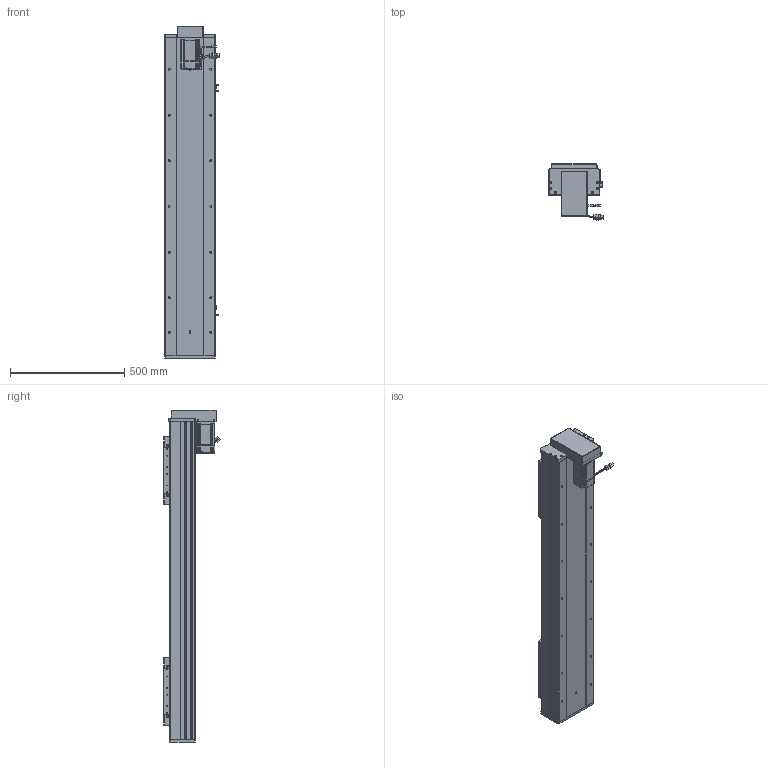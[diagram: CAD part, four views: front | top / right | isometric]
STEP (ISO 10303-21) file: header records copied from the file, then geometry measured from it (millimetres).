
FILE_DESCRIPTION (( 'STEP AP203' ), '1' );
FILE_NAME ('RY220F-L2525-800-BK-邧嶺.SLDASM_950.step', '2022-08-06T08:07:44', ( '' ), ( '' ), 'SwSTEP 2.0', 'SolidWorks 2016', '' );
FILE_SCHEMA (( 'CONFIG_CONTROL_DESIGN' ));
Length unit declared in the file: millimetre
Products named in the file (15): RY220F綴裔啣; RY220F-672覜茼んえ; RY220F-蛌殏奻裔啣-800_950; RY220F-滅鳥奻裔; RY220狟殏萇儂假蚾啣; RY220F-L2525-800-BK-邧嶺.SLDASM_950; 覜茼ん672; RY220F臏賑釱25-32佪裝; 怢湛750W_ECMA-CX0807ES; RY220狟殏萇儂欶; 滅袉蝶18-24; RY220F-詩湍揤踡輸; RY220F-祥凄詩湍-蛌殏-800_950; 侐源滅袉蝶; RY220F蛌殏菁釱-800-邧嶺_950
Assembly tree (24 placements, depth 2):
  RY220F-L2525-800-BK-邧嶺.SLDASM_950
    RY220F蛌殏菁釱-800-邧嶺_950
    RY220F-蛌殏奻裔啣-800_950  x2
    怢湛750W_ECMA-CX0807ES
    RY220F臏賑釱25-32佪裝  x2
    RY220F-滅鳥奻裔  x2
    滅袉蝶18-24  x3
    RY220F綴裔啣
    RY220F-祥凄詩湍-蛌殏-800_950
    RY220F-詩湍揤踡輸  x2
    覜茼ん672  x3
    RY220F-672覜茼んえ  x2
    侐源滅袉蝶  x2
    RY220狟殏萇儂假蚾啣
    RY220狟殏萇儂欶
Bounding box: 237.27 x 247.24 x 1453 mm (x, y, z)
Volume: 14265325.5 mm3; surface area: 3674871.3 mm2
Topology: 25 solids, 25 shells, 2771 faces, 7530 edges, 4657 vertices
Faces by surface type: cylinder 1230, plane 1062, cone 408, bspline 45, sphere 16, torus 10
Entity records: 68661 total; most frequent: CARTESIAN_POINT 18659, ORIENTED_EDGE 10114, DIRECTION 9805, EDGE_CURVE 5057, AXIS2_PLACEMENT_3D 3470, VERTEX_POINT 3273, VECTOR 2865, LINE 2865
